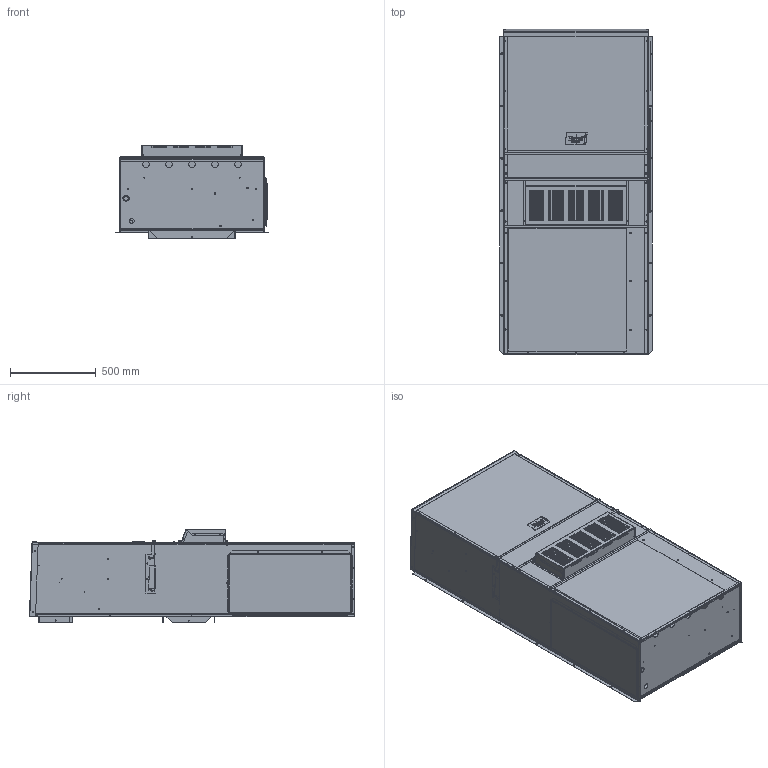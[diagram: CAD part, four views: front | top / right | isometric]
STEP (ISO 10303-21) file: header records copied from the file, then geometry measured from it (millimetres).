
FILE_DESCRIPTION (( 'STEP AP203' ), '1' );
FILE_NAME ('STEP_600_3.STEP', '2016-06-21T14:36:12', ( '' ), ( '' ), 'SwSTEP 2.0', 'SolidWorks 2016', '' );
FILE_SCHEMA (( 'CONFIG_CONTROL_DESIGN' ));
Products named in the file (1): STEP_600_3
Bounding box: 888.56 x 1893.78 x 545.37 mm (x, y, z)
Surface area: 13388528.8 mm2 (no closed solid volume)
Topology: 0 solids, 50 shells, 3738 faces, 10006 edges, 6426 vertices
Faces by surface type: plane 1667, cylinder 1140, bspline 900, cone 22, sphere 5, torus 4
Entity records: 147659 total; most frequent: CARTESIAN_POINT 56313, ORIENTED_EDGE 19952, DIRECTION 17784, EDGE_CURVE 9990, VERTEX_POINT 6421, AXIS2_PLACEMENT_3D 6200, VECTOR 5384, LINE 5384
